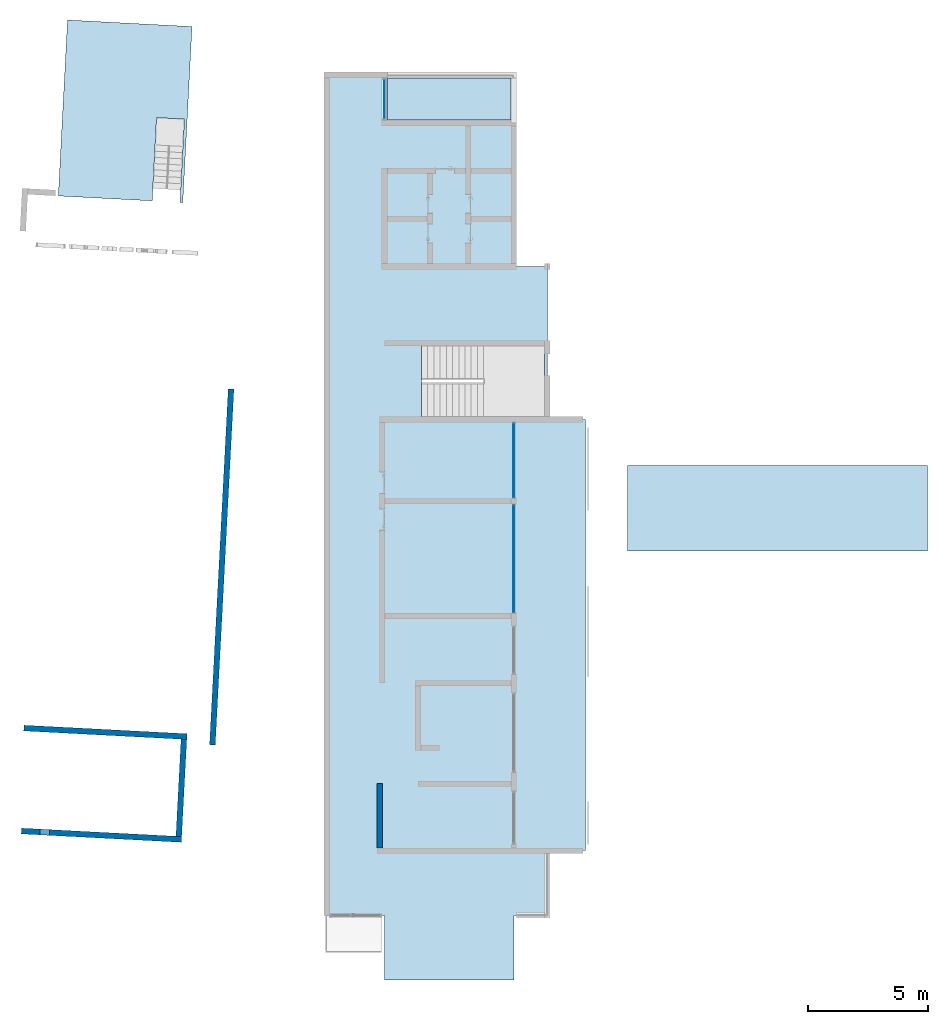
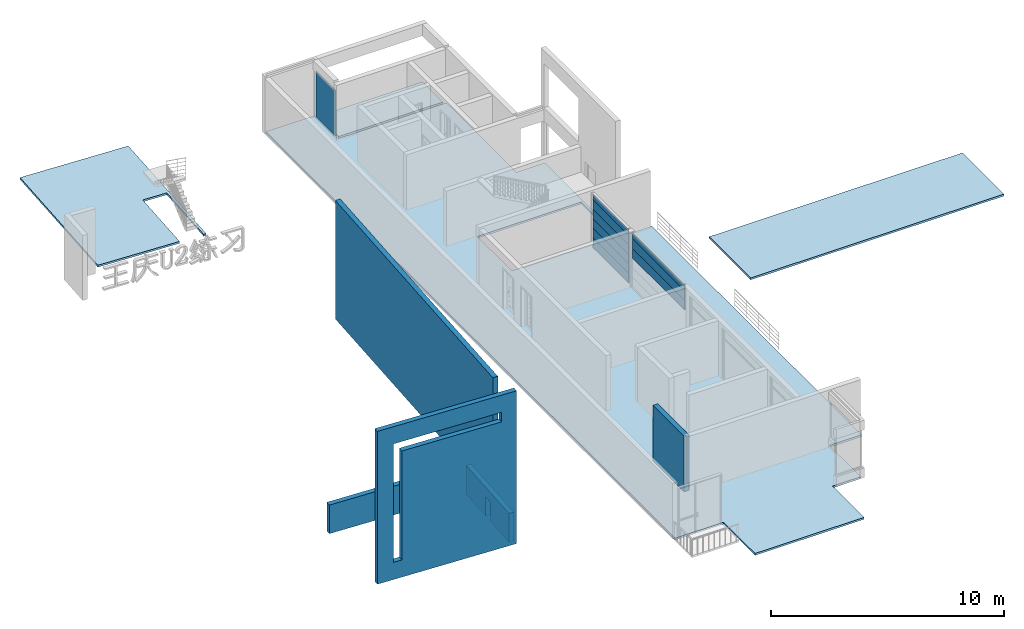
# One storey, part 4 of 16: 10 plates, 5 walls, 4 slabs, 2 openings, 5 elements without a shape of their own.
"""IFC2X3 building model written with IfcOpenShell, lengths in millimetres."""

from ifc_helpers import new_model, entity, si_unit, converted_unit, derived_unit, direction, frame, frame_2d, origin, origin_2d_with_axis, place, context, subcontext, project, spatial, polyline, rectangle, outline, extrude, clip, bounded_halfspace, source, transform, mapped, material, layer, layer_set, layer_usage, type_object, type_shapes, element, aggregate, save


model = new_model("IFC2X3")

# Units and contexts
model_context = context("Model", 3, precision=0.01, world=origin(), true_north=direction((6.12303176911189e-17, 1.0)))
body_context = subcontext(model_context, "Body", "Model", "MODEL_VIEW")
ifc_project = project(units=[si_unit("LENGTHUNIT", "METRE", prefix="MILLI"), si_unit("AREAUNIT", "SQUARE_METRE"), si_unit("VOLUMEUNIT", "CUBIC_METRE"), converted_unit("PLANEANGLEUNIT", "DEGREE", entity("IfcRatioMeasure", 0.0174532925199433), si_unit("PLANEANGLEUNIT", "RADIAN"), dimensions=[0, 0, 0, 0, 0, 0, 0]), si_unit("MASSUNIT", "GRAM", prefix="KILO"), derived_unit("MASSDENSITYUNIT", [(si_unit("MASSUNIT", "GRAM", prefix="KILO"), 1), (si_unit("LENGTHUNIT", "METRE"), -3)]), si_unit("TIMEUNIT", "SECOND"), si_unit("FREQUENCYUNIT", "HERTZ"), si_unit("THERMODYNAMICTEMPERATUREUNIT", "DEGREE_CELSIUS"), derived_unit("THERMALTRANSMITTANCEUNIT", [(si_unit("MASSUNIT", "GRAM", prefix="KILO"), 1), (si_unit("THERMODYNAMICTEMPERATUREUNIT", "KELVIN"), -1), (si_unit("TIMEUNIT", "SECOND"), -3)]), derived_unit("VOLUMETRICFLOWRATEUNIT", [(si_unit("LENGTHUNIT", "METRE"), 3), (si_unit("TIMEUNIT", "SECOND"), -1)]), si_unit("ELECTRICCURRENTUNIT", "AMPERE"), si_unit("ELECTRICVOLTAGEUNIT", "VOLT"), si_unit("POWERUNIT", "WATT"), si_unit("FORCEUNIT", "NEWTON", prefix="KILO"), si_unit("ILLUMINANCEUNIT", "LUX"), si_unit("LUMINOUSFLUXUNIT", "LUMEN"), si_unit("LUMINOUSINTENSITYUNIT", "CANDELA"), derived_unit("USERDEFINED", [(si_unit("MASSUNIT", "GRAM", prefix="KILO"), -1), (si_unit("LENGTHUNIT", "METRE"), -2), (si_unit("TIMEUNIT", "SECOND"), 3), (si_unit("LUMINOUSFLUXUNIT", "LUMEN"), 1)]), derived_unit("LINEARVELOCITYUNIT", [(si_unit("LENGTHUNIT", "METRE"), 1), (si_unit("TIMEUNIT", "SECOND"), -1)]), si_unit("PRESSUREUNIT", "PASCAL"), derived_unit("USERDEFINED", [(si_unit("LENGTHUNIT", "METRE"), -2), (si_unit("MASSUNIT", "GRAM", prefix="KILO"), 1), (si_unit("TIMEUNIT", "SECOND"), -2)])], contexts=[model_context])

# Site, building, storey
site_placement = place(None, origin())
site = spatial("IfcSite", under=ifc_project, at=site_placement, Name="表面", CompositionType="ELEMENT")
building_placement = place(site_placement, origin())
building = spatial("IfcBuilding", under=site, at=building_placement, CompositionType="ELEMENT")
storey_placement = place(building_placement, frame((0.0, 0.0, 3000.0)))
storey = spatial("IfcBuildingStorey", under=building, at=storey_placement, Name="2F", CompositionType="ELEMENT", Elevation=3000.00000000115)

# Curtain wall, plates
curtain_wall_type_1 = type_object("IfcCurtainWallType", Name="幕墙:幕墙 1", PredefinedType="NOTDEFINED")
curtain_wall_1_placement = place(storey_placement, frame((0.0, 0.0, -3000.0)))
curtain_wall_1 = element("IfcCurtainWall", 1, at=curtain_wall_1_placement, inside=storey, type_object=curtain_wall_type_1, Name="幕墙:幕墙 1", ObjectType="幕墙:幕墙 1")
ifc_material_1 = material(Name="<Unnamed>")
ifc_layer_1 = layer(ifc_material_1, 30.0)
ifc_layer_set_1 = layer_set([ifc_layer_1], Name="幕墙系统:1450 x 2100mm")
ifc_layer_usage_1 = layer_usage(ifc_layer_set_1, "AXIS3", "POSITIVE", 0.0)
plate_type_1 = type_object("IfcPlateType", Name="玻璃", PredefinedType="CURTAIN_PANEL", material=ifc_layer_set_1)
shared_shape_1 = source(origin(), body_context, "Body", "SweptSolid", [
    extrude(rectangle(XDim=30.0, YDim=3069.02251367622, at=origin_2d_with_axis()), frame((0.0, 0.0, 0.0), z_axis=(0.0, 0.0, 1.0), x_axis=(0.0, 1.0, 0.0)), (0.0, 0.0, 1.0), 500.0),
])
type_shapes(plate_type_1, [shared_shape_1])
plate_1_placement = place(curtain_wall_1_placement, frame((-6630.24991264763, -10412.3571698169, 3050.0), z_axis=(0.0, 0.0, 1.0), x_axis=(0.0, -1.0, 0.0)))
plate_1 = element("IfcPlate", 2, at=plate_1_placement, type_object=plate_type_1, material=ifc_layer_usage_1, Name="系统嵌板:玻璃", ObjectType="玻璃", context=body_context, shape_type="MappedRepresentation", body=[
    mapped(shared_shape_1, transform((0.0, 0.0, 0.0), scale=1.0)),
])
ifc_layer_usage_2 = layer_usage(ifc_layer_set_1, "AXIS3", "POSITIVE", 0.0)
plate_2_placement = place(curtain_wall_1_placement, frame((-6630.24991264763, -10412.3571698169, 3550.0), z_axis=(0.0, 0.0, 1.0), x_axis=(0.0, -1.0, 0.0)))
plate_2 = element("IfcPlate", 3, at=plate_2_placement, type_object=plate_type_1, material=ifc_layer_usage_2, Name="系统嵌板:玻璃", ObjectType="玻璃", context=body_context, shape_type="MappedRepresentation", body=[
    mapped(shared_shape_1, transform((0.0, 0.0, 0.0), scale=1.0)),
])
ifc_layer_usage_3 = layer_usage(ifc_layer_set_1, "AXIS3", "POSITIVE", 0.0)
plate_3_placement = place(curtain_wall_1_placement, frame((-6630.24991264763, -10412.3571698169, 4050.0), z_axis=(0.0, 0.0, 1.0), x_axis=(0.0, -1.0, 0.0)))
plate_3 = element("IfcPlate", 4, at=plate_3_placement, type_object=plate_type_1, material=ifc_layer_usage_3, Name="系统嵌板:玻璃", ObjectType="玻璃", context=body_context, shape_type="MappedRepresentation", body=[
    mapped(shared_shape_1, transform((0.0, 0.0, 0.0), scale=1.0)),
])
ifc_layer_usage_4 = layer_usage(ifc_layer_set_1, "AXIS3", "POSITIVE", 0.0)
plate_4_placement = place(curtain_wall_1_placement, frame((-6630.24991264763, -10412.3571698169, 4550.0), z_axis=(0.0, 0.0, 1.0), x_axis=(0.0, -1.0, 0.0)))
plate_4 = element("IfcPlate", 5, at=plate_4_placement, type_object=plate_type_1, material=ifc_layer_usage_4, Name="系统嵌板:玻璃", ObjectType="玻璃", context=body_context, shape_type="MappedRepresentation", body=[
    mapped(shared_shape_1, transform((0.0, 0.0, 0.0), scale=1.0)),
])
ifc_layer_usage_5 = layer_usage(ifc_layer_set_1, "AXIS3", "POSITIVE", 0.0)
plate_5_placement = place(curtain_wall_1_placement, frame((-6630.24991264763, -10412.3571698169, 5050.0), z_axis=(0.0, 0.0, 1.0), x_axis=(0.0, -1.0, 0.0)))
plate_5 = element("IfcPlate", 6, at=plate_5_placement, type_object=plate_type_1, material=ifc_layer_usage_5, Name="系统嵌板:玻璃", ObjectType="玻璃", context=body_context, shape_type="MappedRepresentation", body=[
    mapped(shared_shape_1, transform((0.0, 0.0, 0.0), scale=1.0)),
])

curtain_wall_2_placement = place(storey_placement, frame((0.0, 0.0, -3000.0)))
curtain_wall_2 = element("IfcCurtainWall", 7, at=curtain_wall_2_placement, inside=storey, type_object=curtain_wall_type_1, Name="幕墙:幕墙 1", ObjectType="幕墙:幕墙 1")
ifc_layer_usage_6 = layer_usage(ifc_layer_set_1, "AXIS3", "POSITIVE", 0.0)
plate_type_2 = type_object("IfcPlateType", Name="玻璃", PredefinedType="CURTAIN_PANEL", material=ifc_layer_set_1)
shared_shape_2 = source(origin(), body_context, "Body", "SweptSolid", [
    extrude(rectangle(XDim=30.0, YDim=4460.0, at=origin_2d_with_axis()), frame((0.0, 0.0, 0.0), z_axis=(0.0, 0.0, 1.0), x_axis=(0.0, 1.0, 0.0)), (0.0, 0.0, 1.0), 500.0),
])
type_shapes(plate_type_2, [shared_shape_2])
plate_6_placement = place(curtain_wall_2_placement, frame((-6630.24991264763, -14516.868426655, 4550.0), z_axis=(0.0, 0.0, 1.0), x_axis=(0.0, -1.0, 0.0)))
plate_6 = element("IfcPlate", 8, at=plate_6_placement, type_object=plate_type_2, material=ifc_layer_usage_6, Name="系统嵌板:玻璃", ObjectType="玻璃", context=body_context, shape_type="MappedRepresentation", body=[
    mapped(shared_shape_2, transform((0.0, 0.0, 0.0), scale=1.0)),
])
ifc_layer_usage_7 = layer_usage(ifc_layer_set_1, "AXIS3", "POSITIVE", 0.0)
plate_7_placement = place(curtain_wall_2_placement, frame((-6630.24991264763, -14516.868426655, 5050.0), z_axis=(0.0, 0.0, 1.0), x_axis=(0.0, -1.0, 0.0)))
plate_7 = element("IfcPlate", 9, at=plate_7_placement, type_object=plate_type_2, material=ifc_layer_usage_7, Name="系统嵌板:玻璃", ObjectType="玻璃", context=body_context, shape_type="MappedRepresentation", body=[
    mapped(shared_shape_2, transform((0.0, 0.0, 0.0), scale=1.0)),
])

# Plate
ifc_layer_usage_8 = layer_usage(ifc_layer_set_1, "AXIS3", "POSITIVE", 0.0)
plate_type_3 = type_object("IfcPlateType", Name="玻璃", PredefinedType="CURTAIN_PANEL", material=ifc_layer_set_1)
shared_shape_3 = source(origin(), body_context, "Body", "SweptSolid", [
    extrude(rectangle(XDim=30.0, YDim=3069.02251367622, at=origin_2d_with_axis()), frame((0.0, 0.0, 0.0), z_axis=(0.0, 0.0, 1.0), x_axis=(0.0, 1.0, 0.0)), (0.0, 0.0, 1.0), 299.999999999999),
])
type_shapes(plate_type_3, [shared_shape_3])
plate_8_placement = place(curtain_wall_1_placement, frame((-6630.24991264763, -10412.3571698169, 5550.0), z_axis=(0.0, 0.0, 1.0), x_axis=(0.0, -1.0, 0.0)))
plate_8 = element("IfcPlate", 10, at=plate_8_placement, type_object=plate_type_3, material=ifc_layer_usage_8, Name="系统嵌板:玻璃", ObjectType="玻璃", context=body_context, shape_type="MappedRepresentation", body=[
    mapped(shared_shape_3, transform((0.0, 0.0, 0.0), scale=1.0)),
])

aggregate(curtain_wall_1, [plate_1, plate_2, plate_3, plate_4, plate_5, plate_8])

ifc_layer_usage_9 = layer_usage(ifc_layer_set_1, "AXIS3", "POSITIVE", 0.0)
plate_type_4 = type_object("IfcPlateType", Name="玻璃", PredefinedType="CURTAIN_PANEL", material=ifc_layer_set_1)
shared_shape_4 = source(origin(), body_context, "Body", "SweptSolid", [
    extrude(rectangle(XDim=30.0, YDim=4460.0, at=origin_2d_with_axis()), frame((0.0, 0.0, 0.0), z_axis=(0.0, 0.0, 1.0), x_axis=(0.0, 1.0, 0.0)), (0.0, 0.0, 1.0), 299.999999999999),
])
type_shapes(plate_type_4, [shared_shape_4])
plate_9_placement = place(curtain_wall_2_placement, frame((-6630.24991264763, -14516.868426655, 5550.0), z_axis=(0.0, 0.0, 1.0), x_axis=(0.0, -1.0, 0.0)))
plate_9 = element("IfcPlate", 11, at=plate_9_placement, type_object=plate_type_4, material=ifc_layer_usage_9, Name="系统嵌板:玻璃", ObjectType="玻璃", context=body_context, shape_type="MappedRepresentation", body=[
    mapped(shared_shape_4, transform((0.0, 0.0, 0.0), scale=1.0)),
])

aggregate(curtain_wall_2, [plate_6, plate_7, plate_9])

# Curtain wall, plate
curtain_wall_type_2 = type_object("IfcCurtainWallType", Name="幕墙:幕墙 2", PredefinedType="NOTDEFINED")
curtain_wall_3_placement = place(storey_placement, frame((0.0, 0.0, -3000.0)))
curtain_wall_3 = element("IfcCurtainWall", 12, at=curtain_wall_3_placement, inside=storey, type_object=curtain_wall_type_2, Name="幕墙:幕墙 2", ObjectType="幕墙:幕墙 2")
ifc_layer_usage_10 = layer_usage(ifc_layer_set_1, "AXIS3", "POSITIVE", 0.0)
plate_type_5 = type_object("IfcPlateType", Name="玻璃", PredefinedType="CURTAIN_PANEL", material=ifc_layer_set_1)
shared_shape_5 = source(origin(), body_context, "Body", "SweptSolid", [
    extrude(rectangle(XDim=30.0, YDim=1660.0, at=origin_2d_with_axis()), frame((0.0, 0.0, 0.0), z_axis=(0.0, 0.0, 1.0), x_axis=(0.0, 1.0, 0.0)), (0.0, 0.0, 1.0), 2400.0),
])
type_shapes(plate_type_5, [shared_shape_5])
plate_10_placement = place(curtain_wall_3_placement, frame((-12030.2499126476, 4683.13157334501, 3050.0), z_axis=(0.0, 0.0, 1.0), x_axis=(0.0, -1.0, 0.0)))
plate_10 = element("IfcPlate", 13, at=plate_10_placement, type_object=plate_type_5, material=ifc_layer_usage_10, Name="系统嵌板:玻璃", ObjectType="玻璃", context=body_context, shape_type="MappedRepresentation", body=[
    mapped(shared_shape_5, transform((0.0, 0.0, 0.0), scale=1.0)),
])
aggregate(curtain_wall_3, [plate_10])

# Slab, opening
ifc_material_2 = material(Name="默认楼板")
ifc_layer_2 = layer(ifc_material_2, 100.0)
ifc_layer_set_2 = layer_set([ifc_layer_2], Name="楼板:常规 - 100mm")
ifc_layer_usage_11 = layer_usage(ifc_layer_set_2, "AXIS3", "POSITIVE", 0.0)
slab_1_placement = place(storey_placement, frame((-14430.2499126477, -32116.868426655, -100.0)))
slab_1 = element("IfcSlab", 14, at=slab_1_placement, inside=storey, material=ifc_layer_usage_11, Name="楼板:常规 - 100mm", ObjectType="楼板:常规 - 100mm", PredefinedType="FLOOR", context=body_context, shape_type="SweptSolid", body=[
    extrude(outline(polyline([(5400.0, -16200.0), (5400.0, 18900.0), (3000.0, 18900.0), (3000.0, 16900.0), (-2400.0, 16900.0), (-2400.0, 10900.0), (-3800.0, 10900.0), (-3800.0, 4509.0225136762), (-5400.0, 4509.0225136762), (-5400.0, -13500.0), (-3800.0, -13500.0), (-3800.0, -16200.0), (-2400.0, -16200.0), (-2400.0, -18900.0), (3000.0, -18900.0), (3000.0, -16200.0), (5400.0, -16200.0)])), frame((5400.0, 18900.0, 100.0), z_axis=(0.0, 0.0, -1.0), x_axis=(-1.0, 0.0, 0.0)), (0.0, 0.0, 1.0), 100.0),
])
opening_1_placement = place(storey_placement, frame((-14430.2499126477, -32116.868426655, -100.0)))
element("IfcOpeningElement", 15, at=opening_1_placement, cuts=slab_1, ObjectType="Opening", context=body_context, shape_type="SweptSolid", body=[
    extrude(rectangle(XDim=2950.9774863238, YDim=5139.99999999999, at=frame_2d((-1110.0, 6104.51125683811), x_axis=(0.0, -1.0))), frame((5400.0, 18900.0, 100.0), z_axis=(0.0, 0.0, -1.0), x_axis=(-1.0, 0.0, 0.0)), (0.0, 0.0, 1.0), 100.0),
])

# Roof, slab
roof_1_placement = place(storey_placement, frame((-1890.24991264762, -14187.8459129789, -100.0)))
roof_1 = element("IfcRoof", 16, at=roof_1_placement, inside=storey, Name="基本屋顶:白屋顶", ObjectType="基本屋顶:白屋顶", ShapeType="NOTDEFINED")
ifc_material_3 = material(Name="白色涂料")
ifc_layer_3 = layer(ifc_material_3, 10.0)
ifc_material_4 = material(Name="默认屋顶")
ifc_layer_4 = layer(ifc_material_4, 80.0)
ifc_layer_5 = layer(ifc_material_3, 10.0)
ifc_layer_set_3 = layer_set([ifc_layer_3, ifc_layer_4, ifc_layer_5], Name="基本屋顶:白屋顶")
slab_2_placement = place(roof_1_placement, origin())
slab_2 = element("IfcSlab", 17, at=slab_2_placement, material=ifc_layer_set_3, Name="基本屋顶:白屋顶", ObjectType="基本屋顶:白屋顶", PredefinedType="ROOF", context=body_context, shape_type="SweptSolid", body=[
    extrude(rectangle(XDim=12540.0, YDim=3560.00000000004, at=frame_2d((0.0, 1.13686837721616e-12), x_axis=(1.0, 0.0))), frame((6270.0, 1780.0, 0.0)), (0.0, 0.0, 1.0), 100.0),
])
aggregate(roof_1, [slab_2])

# Slab
ifc_layer_usage_12 = layer_usage(ifc_layer_set_2, "AXIS3", "POSITIVE", 0.0)
slab_3_placement = place(storey_placement, origin())
element("IfcSlab", 18, at=slab_3_placement, inside=storey, material=ifc_layer_usage_12, Name="楼板:常规 - 100mm", ObjectType="楼板:常规 - 100mm", PredefinedType="FLOOR", context=body_context, shape_type="SweptSolid", body=[
    extrude(outline(polyline([(-4650.0, -1652.5), (2710.0, -1652.5), (2710.0, -1532.5), (-770.0, -1532.50000000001), (-770.0, -372.499999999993), (2710.0, -372.499999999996), (2710.0, 3557.50000000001), (-4650.0, 3557.50000000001), (-4650.0, -1652.5)])), frame((-21964.5694385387, 3151.60168391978, 0.0), z_axis=(0.0, 0.0, -1.0), x_axis=(-0.0523359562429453, -0.998629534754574, 0.0)), (0.0, 0.0, 1.0), 100.0),
])

# Roof, slab
roof_2_placement = place(storey_placement, frame((-11910.2499126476, 3803.131573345, -100.0)))
roof_2 = element("IfcRoof", 19, at=roof_2_placement, inside=storey, Name="基本屋顶:白屋顶", ObjectType="基本屋顶:白屋顶", ShapeType="NOTDEFINED")
slab_4_placement = place(roof_2_placement, origin())
slab_4 = element("IfcSlab", 20, at=slab_4_placement, material=ifc_layer_set_3, Name="基本屋顶:白屋顶", ObjectType="基本屋顶:白屋顶", PredefinedType="ROOF", context=body_context, shape_type="SweptSolid", body=[
    extrude(rectangle(XDim=5160.0, YDim=1760.00000000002, at=frame_2d((0.0, 2.8421709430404e-13), x_axis=(1.0, 0.0))), frame((2580.0, 880.0, 0.0)), (0.0, 0.0, 1.0), 100.0),
])
aggregate(roof_2, [slab_4])

# Wall
ifc_layer_6 = layer(ifc_material_3, 10.0)
ifc_material_5 = material(Name="默认墙")
ifc_layer_7 = layer(ifc_material_5, 220.0)
ifc_layer_8 = layer(ifc_material_3, 10.0)
ifc_layer_set_4 = layer_set([ifc_layer_6, ifc_layer_7, ifc_layer_8], Name="基本墙:粉刷墙240")
ifc_layer_usage_13 = layer_usage(ifc_layer_set_4, "AXIS2", "NEGATIVE", 120.0)
wall_type_1 = type_object("IfcWallType", Name="基本墙:粉刷墙240", PredefinedType="STANDARD", material=ifc_layer_set_4)
wall_1_placement = place(storey_placement, frame((-12230.2499126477, -26596.868426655, 0.0), z_axis=(0.0, 0.0, 1.0), x_axis=(0.0, 1.0, 0.0)))
element("IfcWallStandardCase", 21, at=wall_1_placement, inside=storey, type_object=wall_type_1, material=ifc_layer_usage_13, Name="基本墙:粉刷墙240", ObjectType="基本墙:粉刷墙240", context=body_context, shape_type="Clipping", body=[
    clip(extrude(rectangle(XDim=2680.00000000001, YDim=240.000000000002, at=frame_2d((1340.00000000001, -9.9475983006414e-14), x_axis=(-1.0, 0.0))), origin(), (0.0, 0.0, 1.0), 2900.0), bounded_halfspace(frame((0.0, -120.0, 2900.0), z_axis=(0.0, 0.0, -1.0), x_axis=(-1.0, 0.0, 0.0)), True, frame((0.0, -120.0, 2900.0)), polyline([(0.0, 0.0), (2680.0, 0.0), (2680.0, 240.0), (0.0, 240.0), (0.0, 0.0)]))),
])

# Wall, opening
ifc_layer_usage_14 = layer_usage(ifc_layer_set_4, "AXIS2", "NEGATIVE", 120.0)
wall_2_placement = place(storey_placement, frame((-27201.7897169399, -25894.1095224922, 0.0), z_axis=(0.0, 0.0, 1.0), x_axis=(0.998629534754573, -0.0523359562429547, 0.0)))
wall_2 = element("IfcWallStandardCase", 22, at=wall_2_placement, inside=storey, type_object=wall_type_1, material=ifc_layer_usage_14, Name="基本墙:粉刷墙240", ObjectType="基本墙:粉刷墙240", context=body_context, shape_type="SweptSolid", body=[
    extrude(rectangle(XDim=6700.00000000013, YDim=240.0, at=frame_2d((3350.00000000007, -9.30810983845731e-13), x_axis=(-1.0, 0.0))), origin(), (0.0, 0.0, 1.0), 8000.0),
])
opening_2_placement = place(wall_2_placement, origin())
element("IfcOpeningElement", 23, at=opening_2_placement, cuts=wall_2, Name="基本墙:粉刷墙240", ObjectType="Opening", context=body_context, shape_type="SweptSolid", body=[
    extrude(outline(polyline([(-2233.33333333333, -1866.66666666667), (3966.66666666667, -1866.66666666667), (3966.66666666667, -1466.66666666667), (-1733.33333333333, -1466.66666666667), (-1733.33333333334, 3333.33333333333), (-2233.33333333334, 3333.33333333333), (-2233.33333333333, -1866.66666666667)])), frame((2646.66666666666, 120.0, 4866.66666666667), z_axis=(0.0, -1.0, 0.0), x_axis=(0.0, 0.0, -1.0)), (0.0, 0.0, 1.0), 240.0),
])

# Walls
ifc_layer_usage_15 = layer_usage(ifc_layer_set_4, "AXIS2", "NEGATIVE", 120.0)
wall_3_placement = place(storey_placement, frame((-27096.5806492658, -21593.7222082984, 0.0), z_axis=(0.0, 0.0, 1.0), x_axis=(0.998629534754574, -0.0523359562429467, 0.0)))
element("IfcWallStandardCase", 24, at=wall_3_placement, inside=storey, type_object=wall_type_1, material=ifc_layer_usage_15, Name="基本墙:粉刷墙240", ObjectType="基本墙:粉刷墙240", context=body_context, shape_type="SweptSolid", body=[
    extrude(rectangle(XDim=6820.00000000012, YDim=239.999999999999, at=frame_2d((3410.00000000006, 7.38964445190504e-13), x_axis=(-1.0, 0.0))), origin(), (0.0, 0.0, 1.0), 1500.0),
])
ifc_layer_usage_16 = layer_usage(ifc_layer_set_4, "AXIS2", "NEGATIVE", 120.0)
wall_4_placement = place(storey_placement, frame((-20412.0430811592, -22064.2086592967, 0.0), z_axis=(0.0, 0.0, 1.0), x_axis=(-0.0523359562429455, -0.998629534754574, 0.0)))
element("IfcWallStandardCase", 25, at=wall_4_placement, inside=storey, type_object=wall_type_1, material=ifc_layer_usage_16, Name="基本墙:粉刷墙240", ObjectType="基本墙:粉刷墙240", context=body_context, shape_type="Clipping", body=[
    clip(extrude(rectangle(XDim=4060.00000000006, YDim=239.999999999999, at=frame_2d((2030.00000000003, -1.06581410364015e-12), x_axis=(-1.0, 0.0))), origin(), (0.0, 0.0, 1.0), 1500.0), bounded_halfspace(frame((2305.0, 120.0, 1000.0), z_axis=(0.0, 0.0, 1.0), x_axis=(-1.0, 0.0, 0.0)), True, frame((2305.0, 120.0, 1000.0), z_axis=(0.0, 0.0, 1.0), x_axis=(-1.0, 0.0, 0.0)), polyline([(0.0, 0.0), (450.0, 0.0), (450.0, 240.0), (0.0, 240.0), (0.0, 0.0)]))),
])
ifc_material_6 = material(Name="木质 - 木材")
ifc_layer_9 = layer(ifc_material_6, 20.0)
ifc_layer_10 = layer(ifc_material_5, 200.0)
ifc_layer_11 = layer(ifc_material_6, 20.0)
ifc_layer_set_5 = layer_set([ifc_layer_9, ifc_layer_10, ifc_layer_11], Name="基本墙:内墙240")
ifc_layer_usage_17 = layer_usage(ifc_layer_set_5, "AXIS2", "NEGATIVE", 120.0)
wall_type_2 = type_object("IfcWallType", Name="基本墙:内墙240", PredefinedType="STANDARD", material=ifc_layer_set_5)
wall_5_placement = place(storey_placement, frame((-18435.1098304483, -7316.86842665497, -400.0), z_axis=(0.0, 0.0, 1.0), x_axis=(-0.0523359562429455, -0.998629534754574, 0.0)))
element("IfcWallStandardCase", 26, at=wall_5_placement, inside=storey, type_object=wall_type_2, material=ifc_layer_usage_17, Name="基本墙:内墙240", ObjectType="基本墙:内墙240", context=body_context, shape_type="SweptSolid", body=[
    extrude(outline(polyline([(15000.0, -120.0), (15000.0, 120.0), (113.875748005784, 120.0), (126.453615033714, -120.0), (15000.0, -120.0)])), origin(), (0.0, 0.0, 1.0), 6200.0),
])

save(model, "model.ifc")
